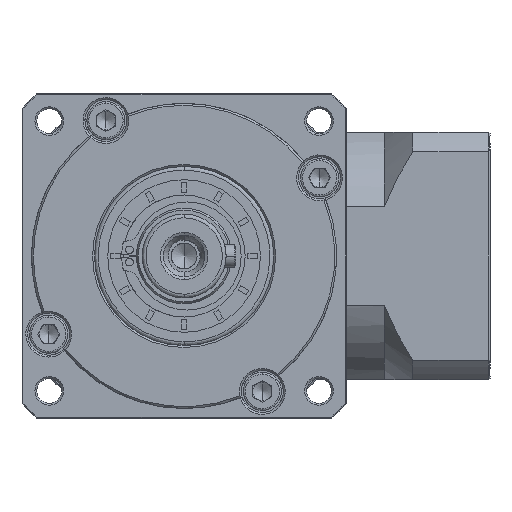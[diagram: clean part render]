
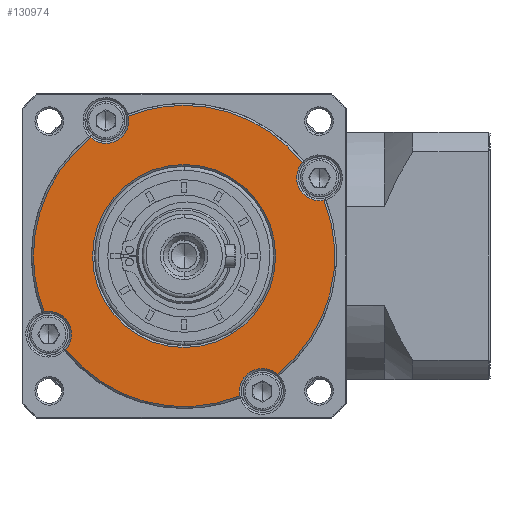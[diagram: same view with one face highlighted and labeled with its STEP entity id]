
A CAD part, left-side view. The second image highlights one B-rep face of the part: STEP entity #130974.
In plain terms, the highlighted planar face has unit normal (-1, 0, 0).
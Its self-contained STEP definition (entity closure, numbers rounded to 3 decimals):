
#340 = CARTESIAN_POINT ( 'NONE',  ( -78.111, -38.428, -115.681 ) ) ;
#582 = CARTESIAN_POINT ( 'NONE',  ( -78.111, -37.24, -109.8 ) ) ;
#2132 = FACE_BOUND ( 'NONE', #79877, .T. ) ;
#3065 = VERTEX_POINT ( 'NONE', #77364 ) ;
#3162 = VERTEX_POINT ( 'NONE', #37803 ) ;
#3353 = DIRECTION ( 'NONE',  ( 0., 0., 1. ) ) ;
#5104 = VERTEX_POINT ( 'NONE', #340 ) ;
#5932 = ORIENTED_EDGE ( 'NONE', *, *, #111604, .F. ) ;
#6079 = VERTEX_POINT ( 'NONE', #18393 ) ;
#9775 = DIRECTION ( 'NONE',  ( 0., 0., 1. ) ) ;
#9938 = ORIENTED_EDGE ( 'NONE', *, *, #142175, .F. ) ;
#10714 = DIRECTION ( 'NONE',  ( 1., 0., 0. ) ) ;
#10729 = ORIENTED_EDGE ( 'NONE', *, *, #49756, .T. ) ;
#11139 = ORIENTED_EDGE ( 'NONE', *, *, #151931, .T. ) ;
#11647 = PLANE ( 'NONE',  #167564 ) ;
#12244 = DIRECTION ( 'NONE',  ( 0., 0., -1. ) ) ;
#13697 = DIRECTION ( 'NONE',  ( 1., 0., 0. ) ) ;
#14155 = DIRECTION ( 'NONE',  ( 0., 0., -1. ) ) ;
#14349 = CARTESIAN_POINT ( 'NONE',  ( -78.111, -1.733, -130.3 ) ) ;
#18393 = CARTESIAN_POINT ( 'NONE',  ( -78.111, -16.351, -166.995 ) ) ;
#19684 = CIRCLE ( 'NONE', #143237, 6. ) ;
#21571 = VERTEX_POINT ( 'NONE', #128546 ) ;
#22235 = CIRCLE ( 'NONE', #144384, 6. ) ;
#22516 = EDGE_CURVE ( 'NONE', #6079, #3162, #157255, .T. ) ;
#24604 = VERTEX_POINT ( 'NONE', #55674 ) ;
#24974 = AXIS2_PLACEMENT_3D ( 'NONE', #171783, #90775, #9775 ) ;
#25267 = CIRCLE ( 'NONE', #102490, 6. ) ;
#26200 = ORIENTED_EDGE ( 'NONE', *, *, #92761, .T. ) ;
#28000 = DIRECTION ( 'NONE',  ( 0., 0., 1. ) ) ;
#29402 = DIRECTION ( 'NONE',  ( 1., 0., 0. ) ) ;
#29541 = CARTESIAN_POINT ( 'NONE',  ( -78.111, 37.767, -130.3 ) ) ;
#30111 = DIRECTION ( 'NONE',  ( 1., 0., 0. ) ) ;
#32280 = EDGE_LOOP ( 'NONE', ( #109332, #26200, #127248, #108645, #5932, #119980, #152246, #11139, #9938, #10729, #121704, #67189 ) ) ;
#33084 = VERTEX_POINT ( 'NONE', #157606 ) ;
#35610 = AXIS2_PLACEMENT_3D ( 'NONE', #110428, #29402, #123958 ) ;
#37803 = CARTESIAN_POINT ( 'NONE',  ( -78.111, 29.275, -154.769 ) ) ;
#37896 = DIRECTION ( 'NONE',  ( 1., 0., 0. ) ) ;
#41140 = CIRCLE ( 'NONE', #123319, 39.5 ) ;
#45698 = CIRCLE ( 'NONE', #72423, 39.5 ) ;
#45803 = VERTEX_POINT ( 'NONE', #153040 ) ;
#46703 = AXIS2_PLACEMENT_3D ( 'NONE', #76159, #170650, #89644 ) ;
#49756 = EDGE_CURVE ( 'NONE', #5104, #24604, #25267, .T. ) ;
#53129 = AXIS2_PLACEMENT_3D ( 'NONE', #118910, #37896, #132422 ) ;
#55674 = CARTESIAN_POINT ( 'NONE',  ( -78.111, -37.24, -115.8 ) ) ;
#55746 = CIRCLE ( 'NONE', #53129, 24. ) ;
#56360 = VERTEX_POINT ( 'NONE', #29541 ) ;
#56453 = CARTESIAN_POINT ( 'NONE',  ( -78.111, 33.774, -150.8 ) ) ;
#56960 = AXIS2_PLACEMENT_3D ( 'NONE', #76164, #170657, #89653 ) ;
#63313 = VERTEX_POINT ( 'NONE', #99117 ) ;
#64855 = CARTESIAN_POINT ( 'NONE',  ( -78.111, -32.741, -105.83 ) ) ;
#65627 = AXIS2_PLACEMENT_3D ( 'NONE', #147821, #66888, #161412 ) ;
#66694 = CARTESIAN_POINT ( 'NONE',  ( -78.111, 12.886, -93.604 ) ) ;
#66888 = DIRECTION ( 'NONE',  ( 1., 0., 0. ) ) ;
#67189 = ORIENTED_EDGE ( 'NONE', *, *, #133707, .F. ) ;
#67478 = AXIS2_PLACEMENT_3D ( 'NONE', #79856, #174358, #93389 ) ;
#69565 = EDGE_CURVE ( 'NONE', #56360, #120492, #160181, .T. ) ;
#69639 = ORIENTED_EDGE ( 'NONE', *, *, #84103, .T. ) ;
#70069 = DIRECTION ( 'NONE',  ( 0., 0., -1. ) ) ;
#71879 = AXIS2_PLACEMENT_3D ( 'NONE', #94740, #13697, #108418 ) ;
#72423 = AXIS2_PLACEMENT_3D ( 'NONE', #165305, #84372, #3353 ) ;
#76159 = CARTESIAN_POINT ( 'NONE',  ( -78.111, -37.24, -109.8 ) ) ;
#76164 = CARTESIAN_POINT ( 'NONE',  ( -78.111, -1.733, -130.3 ) ) ;
#77364 = CARTESIAN_POINT ( 'NONE',  ( -78.111, -26.202, -161.307 ) ) ;
#78700 = CIRCLE ( 'NONE', #46703, 6. ) ;
#79856 = CARTESIAN_POINT ( 'NONE',  ( -78.111, -1.733, -130.3 ) ) ;
#79877 = EDGE_LOOP ( 'NONE', ( #69639, #111169 ) ) ;
#83743 = CIRCLE ( 'NONE', #67478, 39.5 ) ;
#83787 = EDGE_CURVE ( 'NONE', #104912, #160325, #41140, .T. ) ;
#84103 = EDGE_CURVE ( 'NONE', #45803, #63313, #55746, .T. ) ;
#84372 = DIRECTION ( 'NONE',  ( 1., 0., 0. ) ) ;
#89644 = DIRECTION ( 'NONE',  ( 0., 0., -1. ) ) ;
#89653 = DIRECTION ( 'NONE',  ( 0., 1., 0. ) ) ;
#89791 = CIRCLE ( 'NONE', #56960, 39.5 ) ;
#89837 = VERTEX_POINT ( 'NONE', #64855 ) ;
#90775 = DIRECTION ( 'NONE',  ( 1., 0., 0. ) ) ;
#91690 = CARTESIAN_POINT ( 'NONE',  ( -78.111, -22.233, -165.807 ) ) ;
#92761 = EDGE_CURVE ( 'NONE', #104912, #21571, #165608, .T. ) ;
#93272 = DIRECTION ( 'NONE',  ( -1., 0., 0. ) ) ;
#93389 = DIRECTION ( 'NONE',  ( 0., 0., 1. ) ) ;
#94740 = CARTESIAN_POINT ( 'NONE',  ( -78.111, -1.733, -130.3 ) ) ;
#95216 = DIRECTION ( 'NONE',  ( 1., 0., 0. ) ) ;
#99117 = CARTESIAN_POINT ( 'NONE',  ( -78.111, 22.267, -130.3 ) ) ;
#101763 = EDGE_CURVE ( 'NONE', #24604, #89837, #78700, .T. ) ;
#102490 = AXIS2_PLACEMENT_3D ( 'NONE', #582, #95216, #14155 ) ;
#104912 = VERTEX_POINT ( 'NONE', #66694 ) ;
#105416 = DIRECTION ( 'NONE',  ( 0., 0., -1. ) ) ;
#107572 = AXIS2_PLACEMENT_3D ( 'NONE', #111119, #30111, #124659 ) ;
#108418 = DIRECTION ( 'NONE',  ( 0., -1., 0. ) ) ;
#108645 = ORIENTED_EDGE ( 'NONE', *, *, #69565, .F. ) ;
#109066 = DIRECTION ( 'NONE',  ( 1., 0., 0. ) ) ;
#109332 = ORIENTED_EDGE ( 'NONE', *, *, #83787, .F. ) ;
#110129 = FACE_OUTER_BOUND ( 'NONE', #32280, .T. ) ;
#110428 = CARTESIAN_POINT ( 'NONE',  ( -78.111, 18.767, -94.792 ) ) ;
#111119 = CARTESIAN_POINT ( 'NONE',  ( -78.111, -1.733, -130.3 ) ) ;
#111169 = ORIENTED_EDGE ( 'NONE', *, *, #145425, .T. ) ;
#111604 = EDGE_CURVE ( 'NONE', #33084, #56360, #89791, .T. ) ;
#118910 = CARTESIAN_POINT ( 'NONE',  ( -78.111, -1.733, -130.3 ) ) ;
#119980 = ORIENTED_EDGE ( 'NONE', *, *, #125747, .T. ) ;
#120171 = CIRCLE ( 'NONE', #71879, 24. ) ;
#120492 = VERTEX_POINT ( 'NONE', #136563 ) ;
#121704 = ORIENTED_EDGE ( 'NONE', *, *, #101763, .T. ) ;
#123319 = AXIS2_PLACEMENT_3D ( 'NONE', #14349, #109066, #28000 ) ;
#123958 = DIRECTION ( 'NONE',  ( 0., 0., -1. ) ) ;
#124659 = DIRECTION ( 'NONE',  ( 0., 1., 0. ) ) ;
#125747 = EDGE_CURVE ( 'NONE', #33084, #3162, #22235, .T. ) ;
#127248 = ORIENTED_EDGE ( 'NONE', *, *, #170069, .T. ) ;
#128546 = CARTESIAN_POINT ( 'NONE',  ( -78.111, 18.767, -100.792 ) ) ;
#130974 = ADVANCED_FACE ( 'NONE', ( #110129, #2132 ), #11647, .T. ) ;
#132422 = DIRECTION ( 'NONE',  ( 0., -1., 0. ) ) ;
#133060 = CARTESIAN_POINT ( 'NONE',  ( -78.111, -1.733, -90.8 ) ) ;
#133707 = EDGE_CURVE ( 'NONE', #160325, #89837, #83743, .T. ) ;
#136563 = CARTESIAN_POINT ( 'NONE',  ( -78.111, 22.737, -99.292 ) ) ;
#142175 = EDGE_CURVE ( 'NONE', #5104, #3065, #45698, .T. ) ;
#143237 = AXIS2_PLACEMENT_3D ( 'NONE', #91690, #10714, #105416 ) ;
#144384 = AXIS2_PLACEMENT_3D ( 'NONE', #56453, #150961, #70069 ) ;
#145425 = EDGE_CURVE ( 'NONE', #63313, #45803, #120171, .T. ) ;
#147821 = CARTESIAN_POINT ( 'NONE',  ( -78.111, 18.767, -94.792 ) ) ;
#150961 = DIRECTION ( 'NONE',  ( 1., 0., 0. ) ) ;
#151931 = EDGE_CURVE ( 'NONE', #6079, #3065, #19684, .T. ) ;
#152246 = ORIENTED_EDGE ( 'NONE', *, *, #22516, .F. ) ;
#153040 = CARTESIAN_POINT ( 'NONE',  ( -78.111, -25.733, -130.3 ) ) ;
#154147 = CIRCLE ( 'NONE', #35610, 6. ) ;
#157255 = CIRCLE ( 'NONE', #24974, 39.5 ) ;
#157606 = CARTESIAN_POINT ( 'NONE',  ( -78.111, 34.963, -144.918 ) ) ;
#160181 = CIRCLE ( 'NONE', #107572, 39.5 ) ;
#160325 = VERTEX_POINT ( 'NONE', #133060 ) ;
#161412 = DIRECTION ( 'NONE',  ( 0., 0., -1. ) ) ;
#165305 = CARTESIAN_POINT ( 'NONE',  ( -78.111, -1.733, -130.3 ) ) ;
#165608 = CIRCLE ( 'NONE', #65627, 6. ) ;
#167564 = AXIS2_PLACEMENT_3D ( 'NONE', #174248, #93272, #12244 ) ;
#170069 = EDGE_CURVE ( 'NONE', #21571, #120492, #154147, .T. ) ;
#170650 = DIRECTION ( 'NONE',  ( 1., 0., 0. ) ) ;
#170657 = DIRECTION ( 'NONE',  ( 1., 0., 0. ) ) ;
#171783 = CARTESIAN_POINT ( 'NONE',  ( -78.111, -1.733, -130.3 ) ) ;
#174248 = CARTESIAN_POINT ( 'NONE',  ( -78.111, -1.733, -130.3 ) ) ;
#174358 = DIRECTION ( 'NONE',  ( 1., 0., 0. ) ) ;
